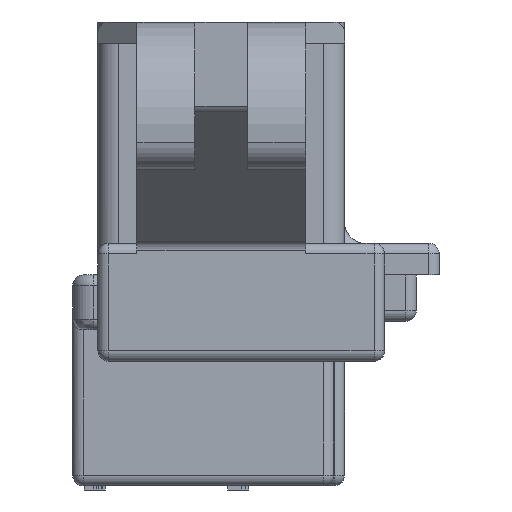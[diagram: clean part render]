
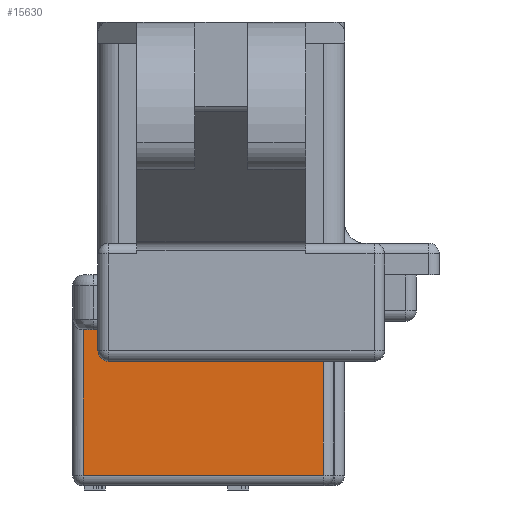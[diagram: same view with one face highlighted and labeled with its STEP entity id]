
A CAD part, left-side view. The second image highlights one B-rep face of the part: STEP entity #15630.
In plain terms, the highlighted planar face has unit normal (-1, 0, 0).
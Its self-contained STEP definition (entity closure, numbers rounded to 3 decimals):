
#62=DIRECTION('',(0.,0.,1.));
#63=VECTOR('',#62,1.);
#64=CARTESIAN_POINT('',(-22.,5.85,-15.6));
#65=LINE('',#64,#63);
#2546=DIRECTION('',(0.,1.,0.));
#2547=VECTOR('',#2546,10.2);
#2548=CARTESIAN_POINT('',(-22.,-4.85,-16.1));
#2549=LINE('',#2548,#2547);
#4883=DIRECTION('',(0.,1.,0.));
#4884=VECTOR('',#4883,11.4);
#4885=CARTESIAN_POINT('',(-22.,-4.85,-21.5));
#4886=LINE('',#4885,#4884);
#4887=DIRECTION('',(0.,0.,1.));
#4888=VECTOR('',#4887,6.9);
#4889=CARTESIAN_POINT('',(-22.,6.55,-21.5));
#4890=LINE('',#4889,#4888);
#4891=DIRECTION('',(0.,-1.,0.));
#4892=VECTOR('',#4891,0.7);
#4893=CARTESIAN_POINT('',(-22.,6.55,-14.6));
#4894=LINE('',#4893,#4892);
#4895=DIRECTION('',(0.,0.,1.));
#4896=VECTOR('',#4895,5.4);
#4897=CARTESIAN_POINT('',(-22.,-4.85,-21.5));
#4898=LINE('',#4897,#4896);
#4944=CARTESIAN_POINT('',(-22.,5.35,-15.6));
#4945=DIRECTION('',(1.,0.,0.));
#4946=DIRECTION('',(0.,0.,-1.));
#4947=AXIS2_PLACEMENT_3D('',#4944,#4945,#4946);
#7684=CARTESIAN_POINT('',(-22.,5.85,-15.6));
#7685=VERTEX_POINT('',#7684);
#7686=CARTESIAN_POINT('',(-22.,5.35,-16.1));
#7687=VERTEX_POINT('',#7686);
#7688=CARTESIAN_POINT('',(-22.,5.85,-14.6));
#7689=VERTEX_POINT('',#7688);
#8560=CARTESIAN_POINT('',(-22.,-4.85,-16.1));
#8561=VERTEX_POINT('',#8560);
#8571=CARTESIAN_POINT('',(-22.,6.55,-14.6));
#8573=VERTEX_POINT('',#8571);
#8598=CARTESIAN_POINT('',(-22.,-4.85,-21.5));
#8599=VERTEX_POINT('',#8598);
#8602=CARTESIAN_POINT('',(-22.,6.55,-21.5));
#8603=VERTEX_POINT('',#8602);
#15613=CARTESIAN_POINT('',(-22.,5.85,-22.));
#15614=DIRECTION('',(-1.,0.,0.));
#15615=DIRECTION('',(0.,0.,1.));
#15616=AXIS2_PLACEMENT_3D('',#15613,#15614,#15615);
#15617=PLANE('',#15616);
#15619=ORIENTED_EDGE('',*,*,#15618,.T.);
#15620=ORIENTED_EDGE('',*,*,#15606,.T.);
#15621=ORIENTED_EDGE('',*,*,#15559,.T.);
#15622=ORIENTED_EDGE('',*,*,#8844,.F.);
#15624=ORIENTED_EDGE('',*,*,#15623,.F.);
#15625=ORIENTED_EDGE('',*,*,#12515,.F.);
#15627=ORIENTED_EDGE('',*,*,#15626,.F.);
#15628=EDGE_LOOP('',(#15619,#15620,#15621,#15622,#15624,#15625,#15627));
#15629=FACE_OUTER_BOUND('',#15628,.F.);
#4948=CIRCLE('',#4947,0.5);
#8844=EDGE_CURVE('',#7685,#7689,#65,.T.);
#12515=EDGE_CURVE('',#8561,#7687,#2549,.T.);
#15559=EDGE_CURVE('',#8573,#7689,#4894,.T.);
#15606=EDGE_CURVE('',#8603,#8573,#4890,.T.);
#15618=EDGE_CURVE('',#8599,#8603,#4886,.T.);
#15623=EDGE_CURVE('',#7687,#7685,#4948,.T.);
#15626=EDGE_CURVE('',#8599,#8561,#4898,.T.);
#15630=ADVANCED_FACE('',(#15629),#15617,.T.);
